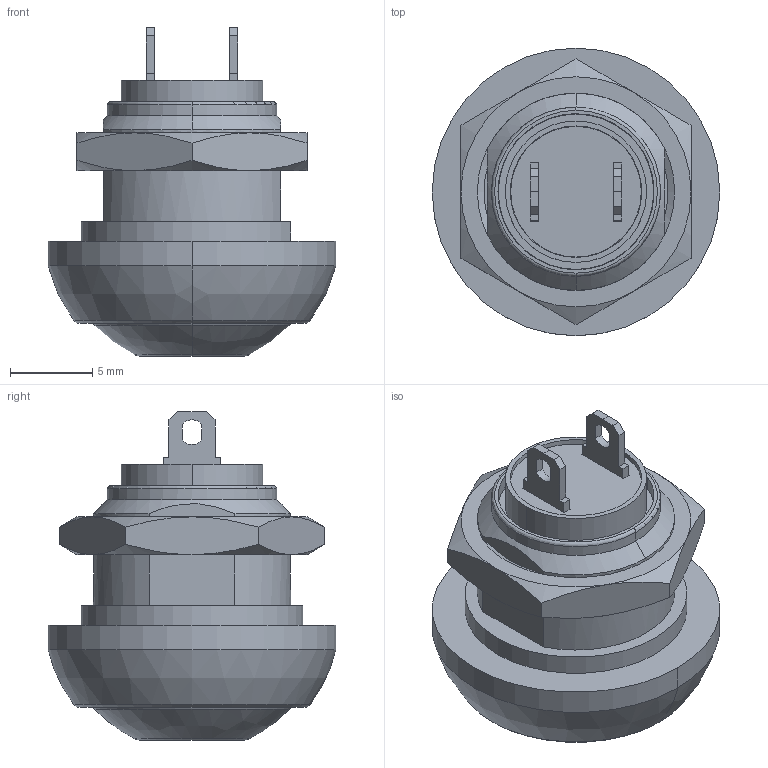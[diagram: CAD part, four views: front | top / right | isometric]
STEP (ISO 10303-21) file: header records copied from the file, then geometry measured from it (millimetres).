
FILE_DESCRIPTION((''),'2;1');
FILE_NAME('ASM','2008-12-24T',('francis'),(''),'PRO/ENGINEER BY PARAMETRIC TECHNOLOGY CORPORATION, 2007030','PRO/ENGINEER BY PARAMETRIC TECHNOLOGY CORPORATION, 2007030','');
FILE_SCHEMA(('CONFIG_CONTROL_DESIGN'));
Length unit declared in the file: millimetre
Products named in the file (1): ASM
Bounding box: 17.5 x 17.5 x 20 mm (x, y, z)
Volume: 1523 mm3; surface area: 2279.2 mm2
Topology: 2 solids, 2 shells, 204 faces, 520 edges, 328 vertices
Faces by surface type: plane 119, cylinder 41, cone 28, torus 8, sphere 6, bspline 2
Entity records: 6315 total; most frequent: CARTESIAN_POINT 1317, DIRECTION 1032, ORIENTED_EDGE 1032, EDGE_CURVE 516, AXIS2_PLACEMENT_3D 368, VERTEX_POINT 328, VECTOR 296, LINE 296
